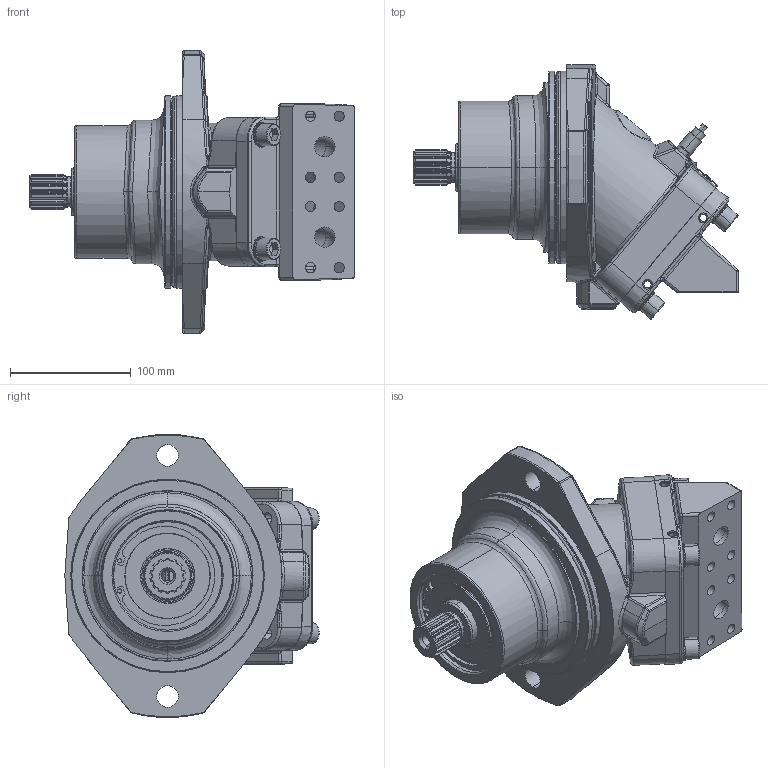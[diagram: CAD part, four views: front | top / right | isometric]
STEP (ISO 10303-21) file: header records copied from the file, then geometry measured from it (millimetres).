
FILE_DESCRIPTION (( 'STEP AP214' ), '1' );
FILE_NAME ('MSI50 B W1 L0 M1 1 1 SV_A.STEP', '2017-03-29T15:07:18', ( '' ), ( '' ), 'SwSTEP 2.0', 'SolidWorks 2016', '' );
FILE_SCHEMA (( 'AUTOMOTIVE_DESIGN' ));
Length unit declared in the file: millimetre
Products named in the file (1): MSI50 B W1 L0 M1 1 1 SV_A
Bounding box: 269.53 x 211.13 x 234.87 mm (x, y, z)
Surface area: 259066.8 mm2 (no closed solid volume)
Topology: 0 solids, 61 shells, 857 faces, 3501 edges, 2645 vertices
Faces by surface type: cylinder 358, plane 195, bspline 133, cone 74, torus 55, sphere 42
Entity records: 55053 total; most frequent: CARTESIAN_POINT 18975, ORIENTED_EDGE 5281, DIRECTION 5164, EDGE_CURVE 3474, VERTEX_POINT 2639, AXIS2_PLACEMENT_3D 1870, VECTOR 1424, LINE 1424
